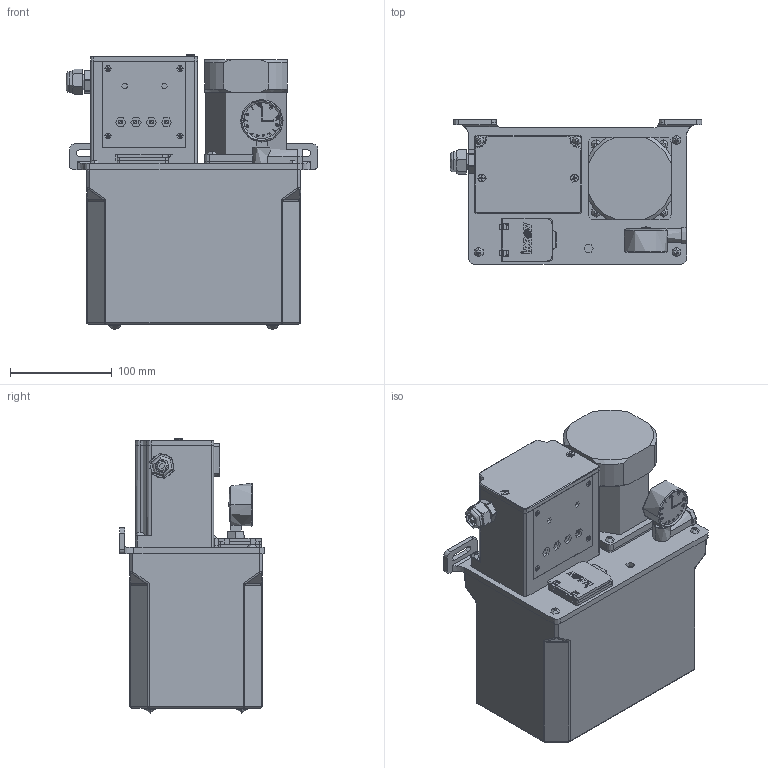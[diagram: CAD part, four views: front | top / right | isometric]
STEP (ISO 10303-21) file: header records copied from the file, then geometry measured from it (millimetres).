
FILE_DESCRIPTION (( 'STEP AP203' ), '1' );
FILE_NAME ('AMG带控制抵坑式3L.STEP', '2020-04-13T02:47:58', ( '个人用户' ), ( '微软中国' ), 'SwSTEP 2.0', 'SolidWorks 2018', '' );
FILE_SCHEMA (( 'CONFIG_CONTROL_DESIGN' ));
Length unit declared in the file: millimetre
Products named in the file (1): AMG湍諷秶萋諧宒3L
Bounding box: 247.16 x 142 x 269.84 mm (x, y, z)
Topology: 0 solids, 51 shells, 708 faces, 2739 edges, 2028 vertices
Faces by surface type: plane 338, cylinder 201, bspline 72, cone 37, sphere 34, torus 26
Entity records: 36493 total; most frequent: CARTESIAN_POINT 14351, DIRECTION 4380, ORIENTED_EDGE 4083, EDGE_CURVE 2729, VERTEX_POINT 2030, VECTOR 1674, LINE 1674, AXIS2_PLACEMENT_3D 1353
